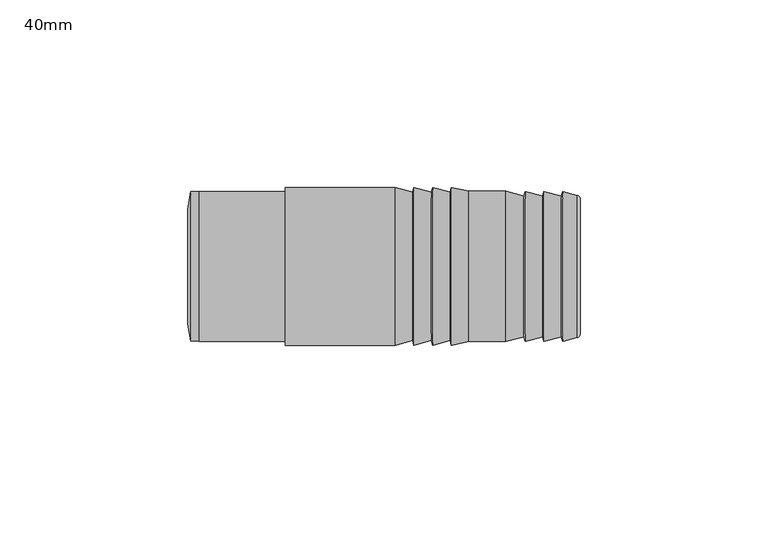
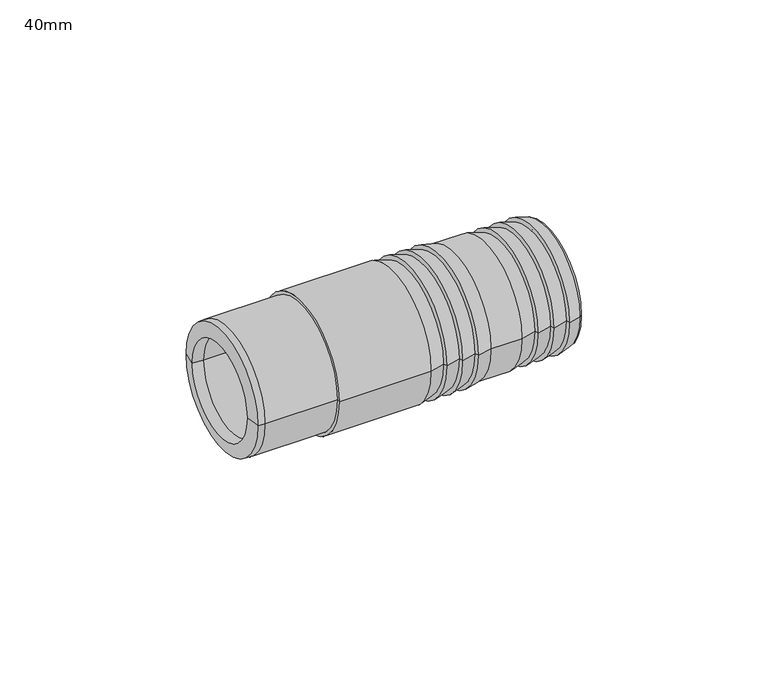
"""IFC4 building model written with IfcOpenShell, lengths in millimetres: pipe fitting geometry, Durapipe_PipeAccessories_PVC_HoseAdaptor : 40mm."""

from ifc_helpers import new_model, si_unit, point, frame, origin, place, context, project, spatial, polyline, circle_curve, ellipse_curve, trimmed, source, transform, mapped, element, save
from ifc_brep_helpers import plane_surface, cylinder_surface, revolved_surface, advanced_brep


def pipe_fitting_40mm_e630270e(model_context):
    return source(origin(), model_context, "Body", "AdvancedBrep", [
        advanced_brep(
        [(52.25, -17.9765355, 0.0), (52.25, 17.9765355, 0.0), (52.25, 15.0, 0.0), (52.25, -15.0, 0.0), (51.508819, -18.9424613, 0.0), (51.508819, 18.9424613, 0.0), (47.5620309, -20.0, 0.0), (47.5620309, 20.0, 0.0), (47.2270944, -18.75, 0.0), (47.2270944, 18.75, 0.0), (42.5620309, -20.0, 0.0), (42.5620309, 20.0, 0.0), (42.2270944, -18.75, 0.0), (42.2270944, 18.75, 0.0), (37.5620309, -20.0, 0.0), (37.5620309, 20.0, 0.0), (37.2270944, -18.75, 0.0), (37.2270944, 18.75, 0.0), (32.4348644, -20.0340742, 0.0), (32.4348644, 20.0340742, 0.0), (22.5620309, -20.0340742, 0.0), (22.5620309, 20.0340742, 0.0), (17.9571467, -21.0, 0.0), (17.9571467, 21.0, 0.0), (17.6222102, -19.75, 0.0), (17.6222102, 19.75, 0.0), (12.9571467, -21.0, 0.0), (12.9571467, 21.0, 0.0), (12.6222102, -19.75, 0.0), (12.6222102, 19.75, 0.0), (7.9571467, -21.0, 0.0), (7.9571467, 21.0, 0.0), (7.6222102, -19.75, 0.0), (7.6222102, 19.75, 0.0), (2.9571467, -21.0, 0.0), (2.9571467, 21.0, 0.0), (-26.25, -21.0, 0.0), (-26.25, 21.0, 0.0), (-26.25, -20.0, 0.0), (-26.25, 20.0, 0.0), (-49.25, -20.0, 0.0), (-49.25, 20.0, 0.0), (-51.4492666, -19.8847413, 0.0), (-51.4492666, 19.8847413, 0.0), (-52.25, -15.3435564, 0.0), (-52.25, 15.3435564, 0.0), (-48.75, -15.0, 0.0), (-48.75, 15.0, 0.0)],
        [
            (0, 1, circle_curve(frame((52.25, 0.0, 0.0), z_axis=(1.0, 0.0, 0.0), x_axis=(0.0, 1.0, 0.0)), 17.9765355)),
            (1, 2),
            (2, 3, circle_curve(frame((52.25, 0.0, 0.0), z_axis=(-1.0, 0.0, 0.0), x_axis=(0.0, 1.0, 0.0)), 15.0)),
            (3, 0),
            (1, 0, circle_curve(frame((52.25, 0.0, 0.0), z_axis=(1.0, 0.0, 0.0), x_axis=(0.0, 1.0, 0.0)), 17.9765355)),
            (3, 2, circle_curve(frame((52.25, 0.0, 0.0), z_axis=(-1.0, 0.0, 0.0), x_axis=(0.0, 1.0, 0.0)), 15.0)),
            (4, 5, circle_curve(frame((51.508819, 0.0, 0.0), z_axis=(1.0, 0.0, 0.0), x_axis=(0.0, 1.0, 0.0)), 18.9424613)),
            (5, 1, circle_curve(frame((51.25, 17.9765355, 0.0), z_axis=(0.0, 0.0, -1.0), x_axis=(1.0, 0.0, 0.0)), 1.0)),
            (0, 4, circle_curve(frame((51.25, -17.9765355, 0.0), z_axis=(0.0, 0.0, -1.0), x_axis=(1.0, 0.0, 0.0)), 1.0)),
            (5, 4, circle_curve(frame((51.508819, 0.0, 0.0), z_axis=(1.0, 0.0, 0.0), x_axis=(0.0, 1.0, 0.0)), 18.9424613)),
            (6, 7, circle_curve(frame((47.5620309, 0.0, 0.0), z_axis=(1.0, 0.0, 0.0), x_axis=(0.0, 1.0, 0.0)), 20.0)),
            (7, 5),
            (4, 6),
            (7, 6, circle_curve(frame((47.5620309, 0.0, 0.0), z_axis=(1.0, 0.0, 0.0), x_axis=(0.0, 1.0, 0.0)), 20.0)),
            (8, 9, circle_curve(frame((47.2270944, 0.0, 0.0), z_axis=(1.0, 0.0, 0.0), x_axis=(0.0, 1.0, 0.0)), 18.75)),
            (9, 7),
            (6, 8),
            (9, 8, circle_curve(frame((47.2270944, 0.0, 0.0), z_axis=(1.0, 0.0, 0.0), x_axis=(0.0, 1.0, 0.0)), 18.75)),
            (10, 11, circle_curve(frame((42.5620309, 0.0, 0.0), z_axis=(1.0, 0.0, 0.0), x_axis=(0.0, 1.0, 0.0)), 20.0)),
            (11, 9),
            (8, 10),
            (11, 10, circle_curve(frame((42.5620309, 0.0, 0.0), z_axis=(1.0, 0.0, 0.0), x_axis=(0.0, 1.0, 0.0)), 20.0)),
            (12, 13, circle_curve(frame((42.2270944, 0.0, 0.0), z_axis=(1.0, 0.0, 0.0), x_axis=(0.0, 1.0, 0.0)), 18.75)),
            (13, 11),
            (10, 12),
            (13, 12, circle_curve(frame((42.2270944, 0.0, 0.0), z_axis=(1.0, 0.0, 0.0), x_axis=(0.0, 1.0, 0.0)), 18.75)),
            (14, 15, circle_curve(frame((37.5620309, 0.0, 0.0), z_axis=(1.0, 0.0, 0.0), x_axis=(0.0, 1.0, 0.0)), 20.0)),
            (15, 13),
            (12, 14),
            (15, 14, circle_curve(frame((37.5620309, 0.0, 0.0), z_axis=(1.0, 0.0, 0.0), x_axis=(0.0, 1.0, 0.0)), 20.0)),
            (16, 17, circle_curve(frame((37.2270944, 0.0, 0.0), z_axis=(1.0, 0.0, 0.0), x_axis=(0.0, 1.0, 0.0)), 18.75)),
            (17, 15),
            (14, 16),
            (17, 16, circle_curve(frame((37.2270944, 0.0, 0.0), z_axis=(1.0, 0.0, 0.0), x_axis=(0.0, 1.0, 0.0)), 18.75)),
            (18, 19, circle_curve(frame((32.4348644, 0.0, 0.0), z_axis=(1.0, 0.0, 0.0), x_axis=(0.0, 1.0, 0.0)), 20.0340742)),
            (19, 17),
            (16, 18),
            (19, 18, circle_curve(frame((32.4348644, 0.0, 0.0), z_axis=(1.0, 0.0, 0.0), x_axis=(0.0, 1.0, 0.0)), 20.0340742)),
            (20, 21, circle_curve(frame((22.5620309, 0.0, 0.0), z_axis=(1.0, 0.0, 0.0), x_axis=(0.0, 1.0, 0.0)), 20.0340742)),
            (21, 19),
            (18, 20),
            (21, 20, circle_curve(frame((22.5620309, 0.0, 0.0), z_axis=(1.0, 0.0, 0.0), x_axis=(0.0, 1.0, 0.0)), 20.0340742)),
            (22, 23, circle_curve(frame((17.9571467, 0.0, 0.0), z_axis=(1.0, 0.0, 0.0), x_axis=(0.0, 1.0, 0.0)), 21.0)),
            (23, 21),
            (20, 22),
            (23, 22, circle_curve(frame((17.9571467, 0.0, 0.0), z_axis=(1.0, 0.0, 0.0), x_axis=(0.0, 1.0, 0.0)), 21.0)),
            (24, 25, circle_curve(frame((17.6222102, 0.0, 0.0), z_axis=(1.0, 0.0, 0.0), x_axis=(0.0, 1.0, 0.0)), 19.75)),
            (25, 23),
            (22, 24),
            (25, 24, circle_curve(frame((17.6222102, 0.0, 0.0), z_axis=(1.0, 0.0, 0.0), x_axis=(0.0, 1.0, 0.0)), 19.75)),
            (26, 27, circle_curve(frame((12.9571467, 0.0, 0.0), z_axis=(1.0, 0.0, 0.0), x_axis=(0.0, 1.0, 0.0)), 21.0)),
            (27, 25),
            (24, 26),
            (27, 26, circle_curve(frame((12.9571467, 0.0, 0.0), z_axis=(1.0, 0.0, 0.0), x_axis=(0.0, 1.0, 0.0)), 21.0)),
            (28, 29, circle_curve(frame((12.6222102, 0.0, 0.0), z_axis=(1.0, 0.0, 0.0), x_axis=(0.0, 1.0, 0.0)), 19.75)),
            (29, 27),
            (26, 28),
            (29, 28, circle_curve(frame((12.6222102, 0.0, 0.0), z_axis=(1.0, 0.0, 0.0), x_axis=(0.0, 1.0, 0.0)), 19.75)),
            (30, 31, circle_curve(frame((7.9571467, 0.0, 0.0), z_axis=(1.0, 0.0, 0.0), x_axis=(0.0, 1.0, 0.0)), 21.0)),
            (31, 29),
            (28, 30),
            (31, 30, circle_curve(frame((7.9571467, 0.0, 0.0), z_axis=(1.0, 0.0, 0.0), x_axis=(0.0, 1.0, 0.0)), 21.0)),
            (32, 33, circle_curve(frame((7.6222102, 0.0, 0.0), z_axis=(1.0, 0.0, 0.0), x_axis=(0.0, 1.0, 0.0)), 19.75)),
            (33, 31),
            (30, 32),
            (33, 32, circle_curve(frame((7.6222102, 0.0, 0.0), z_axis=(1.0, 0.0, 0.0), x_axis=(0.0, 1.0, 0.0)), 19.75)),
            (34, 35, circle_curve(frame((2.9571467, 0.0, 0.0), z_axis=(1.0, 0.0, 0.0), x_axis=(0.0, 1.0, 0.0)), 21.0)),
            (35, 33),
            (32, 34),
            (35, 34, circle_curve(frame((2.9571467, 0.0, 0.0), z_axis=(1.0, 0.0, 0.0), x_axis=(0.0, 1.0, 0.0)), 21.0)),
            (36, 37, circle_curve(frame((-26.25, 0.0, 0.0), z_axis=(1.0, 0.0, 0.0), x_axis=(0.0, 1.0, 0.0)), 21.0)),
            (37, 35),
            (34, 36),
            (37, 36, circle_curve(frame((-26.25, 0.0, 0.0), z_axis=(1.0, 0.0, 0.0), x_axis=(0.0, 1.0, 0.0)), 21.0)),
            (38, 39, circle_curve(frame((-26.25, 0.0, 0.0), z_axis=(1.0, 0.0, 0.0), x_axis=(0.0, 1.0, 0.0)), 20.0)),
            (39, 37),
            (36, 38),
            (39, 38, circle_curve(frame((-26.25, 0.0, 0.0), z_axis=(1.0, 0.0, 0.0), x_axis=(0.0, 1.0, 0.0)), 20.0)),
            (40, 41, circle_curve(frame((-49.25, 0.0, 0.0), z_axis=(1.0, 0.0, 0.0), x_axis=(0.0, 1.0, 0.0)), 20.0)),
            (41, 39),
            (38, 40),
            (41, 40, circle_curve(frame((-49.25, 0.0, 0.0), z_axis=(1.0, 0.0, 0.0), x_axis=(0.0, 1.0, 0.0)), 20.0)),
            (42, 43, circle_curve(frame((-51.4492666, 0.0, 0.0), z_axis=(1.0, 0.0, 0.0), x_axis=(0.0, 1.0, 0.0)), 19.8847413)),
            (43, 41),
            (40, 42),
            (43, 42, circle_curve(frame((-51.4492666, 0.0, 0.0), z_axis=(1.0, 0.0, 0.0), x_axis=(0.0, 1.0, 0.0)), 19.8847413)),
            (44, 45, circle_curve(frame((-52.25, 0.0, 0.0), z_axis=(1.0, 0.0, 0.0), x_axis=(0.0, 1.0, 0.0)), 15.3435564)),
            (45, 43),
            (42, 44),
            (45, 44, circle_curve(frame((-52.25, 0.0, 0.0), z_axis=(1.0, 0.0, 0.0), x_axis=(0.0, 1.0, 0.0)), 15.3435564)),
            (46, 47, circle_curve(frame((-48.75, 0.0, 0.0), z_axis=(1.0, 0.0, 0.0), x_axis=(0.0, 1.0, 0.0)), 15.0)),
            (47, 45, circle_curve(frame((-48.75, 33.0, 0.0), z_axis=(0.0, 0.0, -1.0), x_axis=(-1.0, 0.0, 0.0)), 18.0)),
            (44, 46, circle_curve(frame((-48.75, -33.0, 0.0), z_axis=(0.0, 0.0, -1.0), x_axis=(-1.0, 0.0, 0.0)), 18.0)),
            (47, 46, circle_curve(frame((-48.75, 0.0, 0.0), z_axis=(1.0, 0.0, 0.0), x_axis=(0.0, 1.0, 0.0)), 15.0)),
            (2, 47),
            (46, 3),
        ],
        [
            plane_surface(frame((52.25, 0.0, 0.0), z_axis=(1.0, 0.0, 0.0), x_axis=(0.0, 1.0, 0.0))),
            revolved_surface(trimmed(ellipse_curve(frame((51.25, 17.9765355, 0.0), z_axis=(0.0, 0.0, 1.0), x_axis=(1.0, 0.0, 0.0)), 1.0, 1.0), [point((52.25, 17.9765355, 0.0))], [point((51.508819, 18.9424613, 0.0))], True, "CARTESIAN"), (-49.25, 0.0, 0.0), (-1.0, 0.0, 0.0)),
            revolved_surface(polyline([(51.508819, 18.9424613, 0.0), (47.5620309, 20.0, 0.0)]), (-49.25, 0.0, 0.0), (-1.0, 0.0, 0.0)),
            revolved_surface(polyline([(47.5620309, 20.0, 0.0), (47.2270944, 18.75, 0.0)]), (-49.25, 0.0, 0.0), (-1.0, 0.0, 0.0)),
            revolved_surface(polyline([(47.2270944, 18.75, 0.0), (42.5620309, 20.0, 0.0)]), (-49.25, 0.0, 0.0), (-1.0, 0.0, 0.0)),
            revolved_surface(polyline([(42.5620309, 20.0, 0.0), (42.2270944, 18.75, 0.0)]), (-49.25, 0.0, 0.0), (-1.0, 0.0, 0.0)),
            revolved_surface(polyline([(42.2270944, 18.75, 0.0), (37.5620309, 20.0, 0.0)]), (-49.25, 0.0, 0.0), (-1.0, 0.0, 0.0)),
            revolved_surface(polyline([(37.5620309, 20.0, 0.0), (37.2270944, 18.75, 0.0)]), (-49.25, 0.0, 0.0), (-1.0, 0.0, 0.0)),
            revolved_surface(polyline([(37.2270944, 18.75, 0.0), (32.4348644, 20.0340742, 0.0)]), (-49.25, 0.0, 0.0), (-1.0, 0.0, 0.0)),
            cylinder_surface(frame((-49.25, 0.0, 0.0), z_axis=(-1.0, 0.0, 0.0), x_axis=(0.0, 1.0, 0.0)), 20.0340742),
            revolved_surface(polyline([(22.5620309, 20.0340742, 0.0), (17.9571467, 21.0, 0.0)]), (-49.25, 0.0, 0.0), (-1.0, 0.0, 0.0)),
            revolved_surface(polyline([(17.9571467, 21.0, 0.0), (17.6222102, 19.75, 0.0)]), (-49.25, 0.0, 0.0), (-1.0, 0.0, 0.0)),
            revolved_surface(polyline([(17.6222102, 19.75, 0.0), (12.9571467, 21.0, 0.0)]), (-49.25, 0.0, 0.0), (-1.0, 0.0, 0.0)),
            revolved_surface(polyline([(12.9571467, 21.0, 0.0), (12.6222102, 19.75, 0.0)]), (-49.25, 0.0, 0.0), (-1.0, 0.0, 0.0)),
            revolved_surface(polyline([(12.6222102, 19.75, 0.0), (7.9571467, 21.0, 0.0)]), (-49.25, 0.0, 0.0), (-1.0, 0.0, 0.0)),
            revolved_surface(polyline([(7.9571467, 21.0, 0.0), (7.6222102, 19.75, 0.0)]), (-49.25, 0.0, 0.0), (-1.0, 0.0, 0.0)),
            revolved_surface(polyline([(7.6222102, 19.75, 0.0), (2.9571467, 21.0, 0.0)]), (-49.25, 0.0, 0.0), (-1.0, 0.0, 0.0)),
            cylinder_surface(frame((-49.25, 0.0, 0.0), z_axis=(-1.0, 0.0, 0.0), x_axis=(0.0, 1.0, 0.0)), 21.0),
            plane_surface(frame((-26.25, 0.0, 0.0), z_axis=(-1.0, 0.0, 0.0), x_axis=(0.0, 1.0, 0.0))),
            cylinder_surface(frame((-49.25, 0.0, 0.0), z_axis=(-1.0, 0.0, 0.0), x_axis=(0.0, 1.0, 0.0)), 20.0),
            revolved_surface(polyline([(-49.25, 20.0, 0.0), (-51.4492666, 19.8847413, 0.0)]), (-49.25, 0.0, 0.0), (-1.0, 0.0, 0.0)),
            revolved_surface(polyline([(-51.4492666, 19.8847413, 0.0), (-52.25, 15.3435564, 0.0)]), (-49.25, 0.0, 0.0), (-1.0, 0.0, 0.0)),
            revolved_surface(trimmed(ellipse_curve(frame((-48.75, 33.0, 0.0), z_axis=(0.0, 0.0, 1.0), x_axis=(-1.0, 0.0, 0.0)), 18.0, 18.0), [point((-52.25, 15.3435564, 0.0))], [point((-48.75, 15.0, 0.0))], True, "CARTESIAN"), (-49.25, 0.0, 0.0), (-1.0, 0.0, 0.0)),
            revolved_surface(polyline([(-48.75, 15.0, 0.0), (52.25, 15.0, 0.0)]), (-49.25, 0.0, 0.0), (-1.0, 0.0, 0.0)),
        ],
        [
            (0, [[1, 2, 3, 4]]),
            (0, [[5, -4, 6, -2]]),
            (1, [[7, 8, -1, 9]]),
            (1, [[10, -9, -5, -8]]),
            (2, [[11, 12, -7, 13]]),
            (2, [[14, -13, -10, -12]]),
            (3, [[15, 16, -11, 17]]),
            (3, [[18, -17, -14, -16]]),
            (4, [[19, 20, -15, 21]]),
            (4, [[22, -21, -18, -20]]),
            (5, [[23, 24, -19, 25]]),
            (5, [[26, -25, -22, -24]]),
            (6, [[27, 28, -23, 29]]),
            (6, [[30, -29, -26, -28]]),
            (7, [[31, 32, -27, 33]]),
            (7, [[34, -33, -30, -32]]),
            (8, [[35, 36, -31, 37]]),
            (8, [[38, -37, -34, -36]]),
            (9, [[39, 40, -35, 41]]),
            (9, [[42, -41, -38, -40]]),
            (10, [[43, 44, -39, 45]]),
            (10, [[46, -45, -42, -44]]),
            (11, [[47, 48, -43, 49]]),
            (11, [[50, -49, -46, -48]]),
            (12, [[51, 52, -47, 53]]),
            (12, [[54, -53, -50, -52]]),
            (13, [[55, 56, -51, 57]]),
            (13, [[58, -57, -54, -56]]),
            (14, [[59, 60, -55, 61]]),
            (14, [[62, -61, -58, -60]]),
            (15, [[63, 64, -59, 65]]),
            (15, [[66, -65, -62, -64]]),
            (16, [[67, 68, -63, 69]]),
            (16, [[70, -69, -66, -68]]),
            (17, [[71, 72, -67, 73]]),
            (17, [[74, -73, -70, -72]]),
            (18, [[75, 76, -71, 77]]),
            (18, [[78, -77, -74, -76]]),
            (19, [[79, 80, -75, 81]]),
            (19, [[82, -81, -78, -80]]),
            (20, [[83, 84, -79, 85]]),
            (20, [[86, -85, -82, -84]]),
            (21, [[87, 88, -83, 89]]),
            (21, [[90, -89, -86, -88]]),
            (22, [[91, 92, -87, 93]]),
            (22, [[94, -93, -90, -92]]),
            (23, [[-3, 95, -91, 96]]),
            (23, [[-6, -96, -94, -95]]),
        ],
    ),
    ])


if __name__ == "__main__":
    model = new_model("IFC4")
    model_context = context("Model", 3, world=origin())
    ifc_project = project(units=[si_unit("LENGTHUNIT", "METRE", prefix="MILLI")], contexts=[model_context])
    site = spatial("IfcSite", under=ifc_project)
    building = spatial("IfcBuilding", under=site)
    placement = place(None, origin())
    pipe_fitting_40mm_shape = pipe_fitting_40mm_e630270e(model_context)
    element("IfcPipeFitting", 1, ObjectType="Durapipe_PipeAccessories_PVC_HoseAdaptor : 40mm", at=placement, inside=building, context=model_context, shape_type="MappedRepresentation", body=[
        mapped(pipe_fitting_40mm_shape, transform((0.0, 0.0, 0.0), x_axis=(1.0, 0.0, 0.0), y_axis=(0.0, 1.0, 0.0), z_axis=(0.0, 0.0, 1.0))),
    ])
    save(model, "model.ifc")
